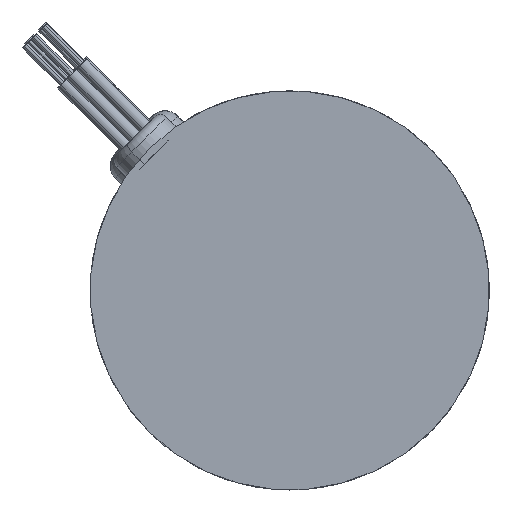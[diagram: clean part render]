
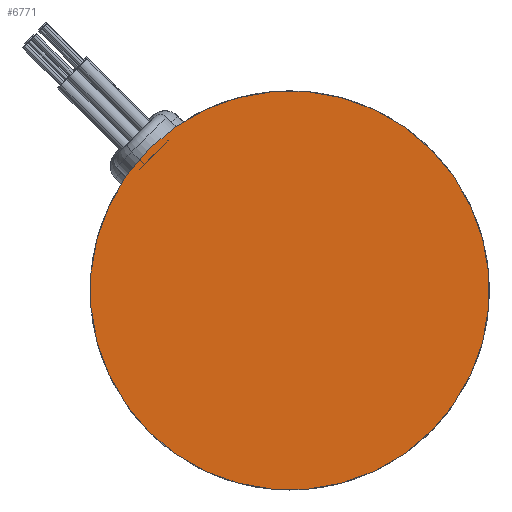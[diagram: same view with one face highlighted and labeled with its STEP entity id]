
A CAD part, left-side view. The second image highlights one B-rep face of the part: STEP entity #6771.
In plain terms, the highlighted planar face has unit normal (-1, 0, 0).
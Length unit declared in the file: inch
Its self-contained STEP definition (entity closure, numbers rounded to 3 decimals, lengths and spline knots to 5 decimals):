
#365 = CARTESIAN_POINT ( 'NONE',  ( 0., -0.7955, 0.7955 ) ) ;
#646 = CARTESIAN_POINT ( 'NONE',  ( 0., 0., 0. ) ) ;
#746 = DIRECTION ( 'NONE',  ( 0., 0.707, -0.707 ) ) ;
#1093 = DIRECTION ( 'NONE',  ( 0., 0.707, -0.707 ) ) ;
#1395 = AXIS2_PLACEMENT_3D ( 'NONE', #8693, #9505, #746 ) ;
#1694 = AXIS2_PLACEMENT_3D ( 'NONE', #7591, #9933, #1093 ) ;
#1807 = EDGE_LOOP ( 'NONE', ( #2222, #3463 ) ) ;
#2222 = ORIENTED_EDGE ( 'NONE', *, *, #4386, .F. ) ;
#2230 = FACE_OUTER_BOUND ( 'NONE', #1807, .T. ) ;
#2554 = AXIS2_PLACEMENT_3D ( 'NONE', #646, #6359, #9617 ) ;
#3463 = ORIENTED_EDGE ( 'NONE', *, *, #3942, .F. ) ;
#3942 = EDGE_CURVE ( 'NONE', #8287, #6312, #9603, .T. ) ;
#4386 = EDGE_CURVE ( 'NONE', #6312, #8287, #10105, .T. ) ;
#5917 = CARTESIAN_POINT ( 'NONE',  ( 0., 0.7955, -0.7955 ) ) ;
#6312 = VERTEX_POINT ( 'NONE', #365 ) ;
#6359 = DIRECTION ( 'NONE',  ( 1., 0., 0. ) ) ;
#6771 = ADVANCED_FACE ( 'NONE', ( #2230 ), #7493, .F. ) ;
#7493 = PLANE ( 'NONE',  #1694 ) ;
#7591 = CARTESIAN_POINT ( 'NONE',  ( 0., 0., 0. ) ) ;
#8287 = VERTEX_POINT ( 'NONE', #5917 ) ;
#8693 = CARTESIAN_POINT ( 'NONE',  ( 0., 0., 0. ) ) ;
#9505 = DIRECTION ( 'NONE',  ( 1., 0., 0. ) ) ;
#9603 = CIRCLE ( 'NONE', #2554, 1.125 ) ;
#9617 = DIRECTION ( 'NONE',  ( 0., 0.707, -0.707 ) ) ;
#9933 = DIRECTION ( 'NONE',  ( 1., 0., 0. ) ) ;
#10105 = CIRCLE ( 'NONE', #1395, 1.125 ) ;
